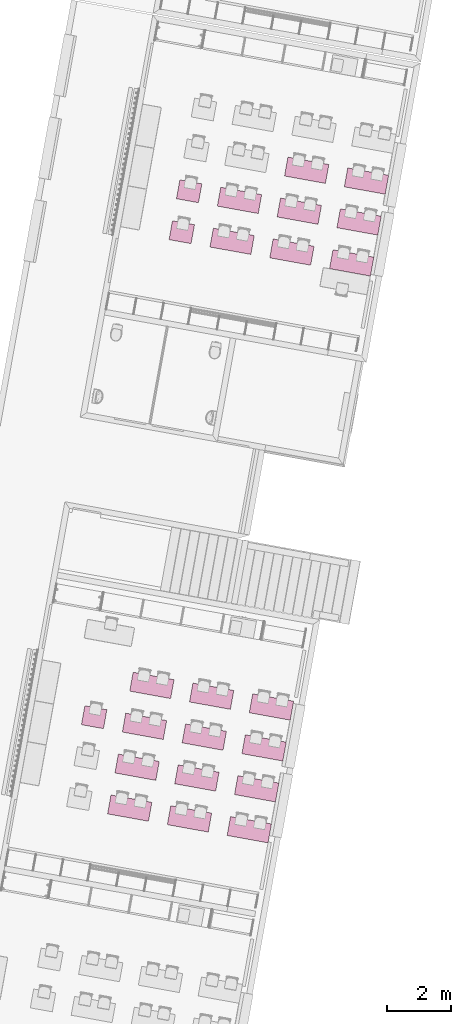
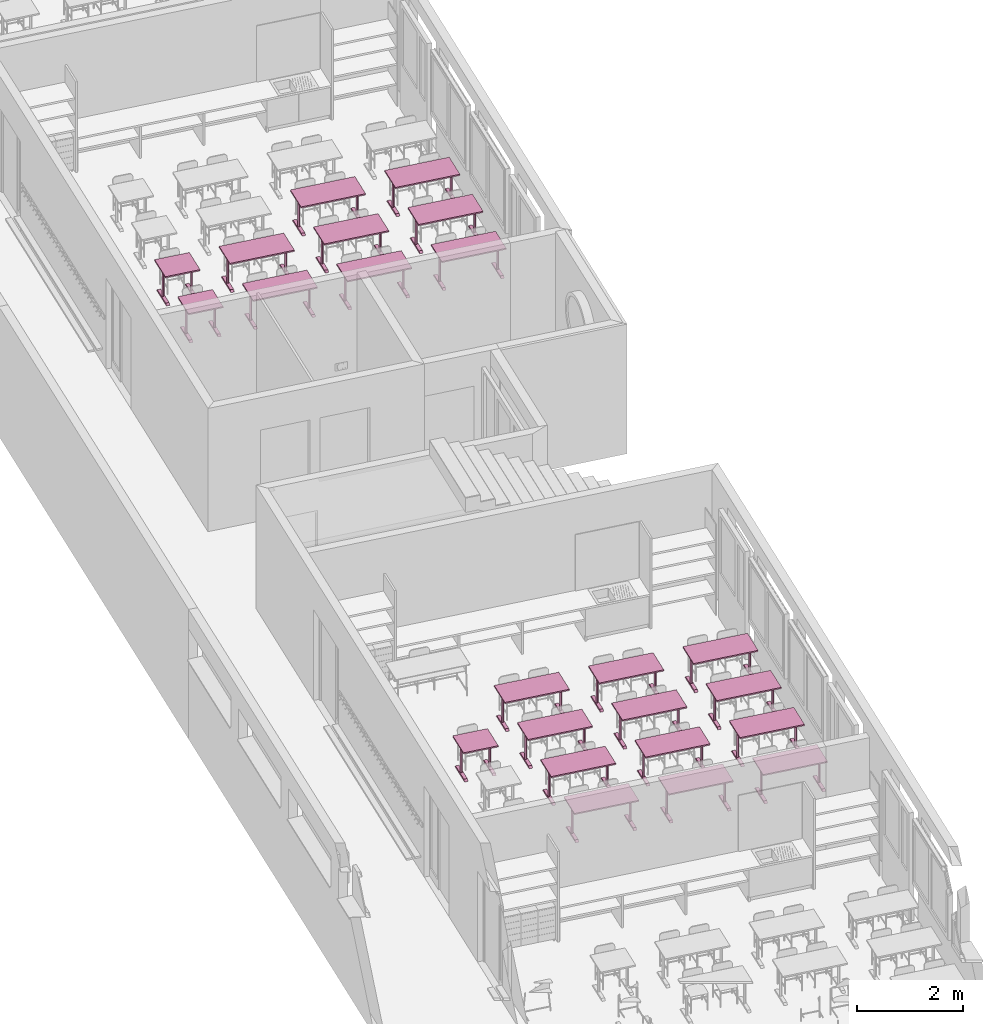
# One storey, part 7 of 79: 23 furnishings.
"""IFC2X3 building model written with IfcOpenShell, lengths in metres."""

from ifc_helpers import new_model, entity, si_unit, converted_unit, derived_unit, money_unit, direction, frame, origin_with_axes, place, context, subcontext, project, spatial, faceted_brep, source, transform, mapped, material, type_object, element, save


model = new_model("IFC2X3")

# Units and contexts
model_context = context("Model", 3, precision=1e-05, world=origin_with_axes(), true_north=direction((0.0, 1.0)))
body_context = subcontext(model_context, "Body", "Model", "MODEL_VIEW")
ifc_project = project(units=[si_unit("LENGTHUNIT", "METRE"), si_unit("AREAUNIT", "SQUARE_METRE"), si_unit("VOLUMEUNIT", "CUBIC_METRE"), converted_unit("PLANEANGLEUNIT", "DEGREE", entity("IfcPlaneAngleMeasure", 0.0174532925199), si_unit("PLANEANGLEUNIT", "RADIAN"), dimensions=[0, 0, 0, 0, 0, 0, 0]), money_unit("CHF"), converted_unit("TIMEUNIT", "Year", entity("IfcTimeMeasure", 31556926.0), si_unit("TIMEUNIT", "SECOND"), dimensions=[0, 0, 1, 0, 0, 0, 0]), si_unit("MASSUNIT", "GRAM", prefix="KILO"), si_unit("THERMODYNAMICTEMPERATUREUNIT", "DEGREE_CELSIUS"), si_unit("LUMINOUSINTENSITYUNIT", "LUMEN"), si_unit("ENERGYUNIT", "JOULE", prefix="MEGA"), derived_unit("THERMALCONDUCTANCEUNIT", [(si_unit("POWERUNIT", "WATT"), 1), (si_unit("LENGTHUNIT", "METRE"), -1), (si_unit("THERMODYNAMICTEMPERATUREUNIT", "KELVIN"), -1)]), derived_unit("SPECIFICHEATCAPACITYUNIT", [(si_unit("ENERGYUNIT", "JOULE"), 1), (si_unit("MASSUNIT", "GRAM", prefix="KILO"), -1), (si_unit("THERMODYNAMICTEMPERATUREUNIT", "KELVIN"), -1)]), derived_unit("MASSDENSITYUNIT", [(si_unit("MASSUNIT", "GRAM", prefix="KILO"), 1), (si_unit("VOLUMEUNIT", "CUBIC_METRE"), -1)])], contexts=[model_context])

# Site, building, storey
site_placement = place(None, frame((0.0, 0.0, 0.0), z_axis=(0.0, 0.0, 1.0), x_axis=(-0.177771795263, -0.984071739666, 0.0)))
site = spatial("IfcSite", under=ifc_project, at=site_placement, Name="Site", CompositionType="ELEMENT")
building_placement = place(site_placement, origin_with_axes())
building = spatial("IfcBuilding", under=site, at=building_placement, Name="Bâtiment", CompositionType="ELEMENT")
storey_placement = place(building_placement, origin_with_axes())
storey = spatial("IfcBuildingStorey", under=building, at=storey_placement, Name="RDC", CompositionType="ELEMENT", Elevation=0.0)

# Furnishings
ifc_material = material(Name="Matériau de construction IFC")
furnishing_element_type = type_object("IfcFurnishingElementType", Name="Table de bureau 21")
shared_shape_1 = source(origin_with_axes(), body_context, "Body", "Brep", [
    faceted_brep([(0.0, 0.0, 0.7), (0.0, 0.0, 0.67), (1.3, 0.0, 0.67), (1.3, 0.0, 0.7), (0.0, 0.6, 0.7), (0.0, 0.6, 0.67), (1.3, 0.6, 0.67), (1.3, 0.6, 0.7)], [[[0, 1, 2, 3]], [[4, 5, 1, 0]], [[1, 5, 6, 2]], [[3, 2, 6, 7]], [[0, 3, 7, 4]], [[7, 6, 5, 4]]]),
    faceted_brep([(0.03, 0.025, 0.0), (0.03, 0.575, 0.0), (0.1, 0.575, 0.0), (0.1, 0.025, 0.0), (0.03, 0.065, 0.04), (0.03, 0.535, 0.04), (0.1, 0.535, 0.04), (0.1, 0.065, 0.04)], [[[0, 1, 2, 3]], [[1, 0, 4, 5]], [[1, 5, 6, 2]], [[3, 2, 6, 7]], [[4, 0, 3, 7]], [[5, 4, 7, 6]]]),
    faceted_brep([(0.09, 0.3, 0.04), (0.065, 0.275, 0.04), (0.04, 0.3, 0.04), (0.065, 0.325, 0.04), (0.09, 0.3, 0.62), (0.065, 0.275, 0.62), (0.04, 0.3, 0.62), (0.065, 0.325, 0.62)], [[[0, 1, 2, 3]], [[1, 0, 4, 5]], [[2, 1, 5, 6]], [[3, 2, 6, 7]], [[0, 3, 7, 4]], [[4, 7, 6, 5]]]),
    faceted_brep([(0.085, 0.3, 0.62), (0.065, 0.28, 0.62), (0.045, 0.3, 0.62), (0.065, 0.32, 0.62), (0.085, 0.3, 0.67), (0.065, 0.28, 0.67), (0.045, 0.3, 0.67), (0.065, 0.32, 0.67)], [[[0, 1, 2, 3]], [[1, 0, 4, 5]], [[2, 1, 5, 6]], [[3, 2, 6, 7]], [[0, 3, 7, 4]], [[4, 7, 6, 5]]]),
    faceted_brep([(1.2, 0.025, 0.0), (1.2, 0.575, 0.0), (1.27, 0.575, 0.0), (1.27, 0.025, 0.0), (1.2, 0.065, 0.04), (1.2, 0.535, 0.04), (1.27, 0.535, 0.04), (1.27, 0.065, 0.04)], [[[0, 1, 2, 3]], [[1, 0, 4, 5]], [[1, 5, 6, 2]], [[3, 2, 6, 7]], [[0, 3, 7, 4]], [[5, 4, 7, 6]]]),
    faceted_brep([(1.26, 0.3, 0.04), (1.235, 0.275, 0.04), (1.21, 0.3, 0.04), (1.235, 0.325, 0.04), (1.26, 0.3, 0.62), (1.235, 0.275, 0.62), (1.21, 0.3, 0.62), (1.235, 0.325, 0.62)], [[[0, 1, 2, 3]], [[1, 0, 4, 5]], [[2, 1, 5, 6]], [[3, 2, 6, 7]], [[0, 3, 7, 4]], [[4, 7, 6, 5]]]),
    faceted_brep([(1.255, 0.3, 0.62), (1.235, 0.28, 0.62), (1.215, 0.3, 0.62), (1.235, 0.32, 0.62), (1.255, 0.3, 0.67), (1.235, 0.28, 0.67), (1.215, 0.3, 0.67), (1.235, 0.32, 0.67)], [[[0, 1, 2, 3]], [[1, 0, 4, 5]], [[2, 1, 5, 6]], [[3, 2, 6, 7]], [[0, 3, 7, 4]], [[4, 7, 6, 5]]]),
])
for number, where, z_axis, x_axis, name in (
    (1, (134.03484124, -149.77715077, 0.0), (0.0, 0.0, 1.0), (0.0, 1.0, 0.0), "bureau-2pl"),
    (2, (135.33484124, -151.67715077, 0.0), (0.0, 0.0, 1.0), (0.0, 1.0, 0.0), "bureau-2pl"),
    (3, (135.33484124, -149.77715077, 0.0), (0.0, 0.0, 1.0), (0.0, 1.0, 0.0), "bureau-2pl"),
    (4, (135.33484124, -153.57715077, 0.0), (0.0, 0.0, 1.0), (0.0, 1.0, 0.0), "bureau-2pl"),
    (5, (134.03484124, -153.57715077, 0.0), (0.0, 0.0, 1.0), (0.0, 1.0, 0.0), "bureau-2pl"),
    (6, (152.049841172, -153.577150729, 0.0), (0.0, 0.0, 1.0), (0.0, 1.0, 0.0), "bureau-2pl"),
    (7, (132.73484124, -151.67715077, 0.0), (0.0, 0.0, 1.0), (0.0, 1.0, 0.0), "bureau-2pl"),
    (8, (149.449841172, -149.777150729, 0.0), (0.0, 0.0, 1.0), (0.0, 1.0, 0.0), "bureau-2pl"),
    (9, (150.749841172, -153.577150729, 0.0), (0.0, 0.0, 1.0), (0.0, 1.0, 0.0), "bureau-2pl"),
    (10, (149.449841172, -153.577150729, 0.0), (0.0, 0.0, 1.0), (0.0, 1.0, 0.0), "bureau-2pl"),
    (11, (134.03484124, -151.67715077, 0.0), (0.0, 0.0, 1.0), (0.0, 1.0, 0.0), "bureau-2pl"),
    (12, (152.049841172, -151.677150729, 0.0), (0.0, 0.0, 1.0), (0.0, 1.0, 0.0), "bureau-2pl"),
    (13, (149.449841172, -151.677150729, 0.0), (0.0, 0.0, 1.0), (0.0, 1.0, 0.0), "bureau-2pl"),
    (14, (132.73484124, -149.77715077, 0.0), (0.0, 0.0, 1.0), (0.0, 1.0, 0.0), "bureau-2pl"),
    (15, (152.049841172, -149.777150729, 0.0), (0.0, 0.0, 1.0), (0.0, 1.0, 0.0), "bureau-2pl"),
    (16, (150.749841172, -151.677150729, 0.0), (0.0, 0.0, 1.0), (0.0, 1.0, 0.0), "bureau-2pl"),
    (17, (153.349841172, -151.677150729, 0.0), (0.0, 0.0, 1.0), (0.0, 1.0, 0.0), "bureau-2pl"),
    (18, (153.349841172, -149.777150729, 0.0), (0.0, 0.0, 1.0), (0.0, 1.0, 0.0), "bureau-2pl"),
    (19, (153.349841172, -153.577150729, 0.0), (0.0, 0.0, 1.0), (0.0, 1.0, 0.0), "bureau-2pl"),
    (20, (150.749841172, -149.777150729, 0.0), (0.0, 0.0, 1.0), (0.0, 1.0, 0.0), "bureau-2pl"),
):
    element("IfcFurnishingElement", number, at=place(storey_placement, frame(where, z_axis=z_axis, x_axis=x_axis)), inside=storey, type_object=furnishing_element_type, material=ifc_material, Name=name, ObjectType="SYSTEM_FURNITURE", context=body_context, shape_type="MappedRepresentation", body=[
        mapped(shared_shape_1, transform((0.0, 0.0, 0.0))),
    ])
shared_shape_2 = source(origin_with_axes(), body_context, "Body", "Brep", [
    faceted_brep([(0.0, 0.0, 0.7), (0.0, 0.0, 0.67), (0.7, 0.0, 0.67), (0.7, 0.0, 0.7), (0.0, 0.6, 0.7), (0.0, 0.6, 0.67), (0.7, 0.6, 0.67), (0.7, 0.6, 0.7)], [[[0, 1, 2, 3]], [[4, 5, 1, 0]], [[1, 5, 6, 2]], [[3, 2, 6, 7]], [[0, 3, 7, 4]], [[7, 6, 5, 4]]]),
    faceted_brep([(0.03, 0.025, 0.0), (0.03, 0.575, 0.0), (0.1, 0.575, 0.0), (0.1, 0.025, 0.0), (0.03, 0.065, 0.04), (0.03, 0.535, 0.04), (0.1, 0.535, 0.04), (0.1, 0.065, 0.04)], [[[0, 1, 2, 3]], [[1, 0, 4, 5]], [[1, 5, 6, 2]], [[3, 2, 6, 7]], [[4, 0, 3, 7]], [[5, 4, 7, 6]]]),
    faceted_brep([(0.09, 0.3, 0.04), (0.065, 0.275, 0.04), (0.04, 0.3, 0.04), (0.065, 0.325, 0.04), (0.09, 0.3, 0.62), (0.065, 0.275, 0.62), (0.04, 0.3, 0.62), (0.065, 0.325, 0.62)], [[[0, 1, 2, 3]], [[1, 0, 4, 5]], [[2, 1, 5, 6]], [[3, 2, 6, 7]], [[0, 3, 7, 4]], [[4, 7, 6, 5]]]),
    faceted_brep([(0.085, 0.3, 0.62), (0.065, 0.28, 0.62), (0.045, 0.3, 0.62), (0.065, 0.32, 0.62), (0.085, 0.3, 0.67), (0.065, 0.28, 0.67), (0.045, 0.3, 0.67), (0.065, 0.32, 0.67)], [[[0, 1, 2, 3]], [[1, 0, 4, 5]], [[2, 1, 5, 6]], [[3, 2, 6, 7]], [[0, 3, 7, 4]], [[4, 7, 6, 5]]]),
    faceted_brep([(0.6, 0.025, 0.0), (0.6, 0.575, 0.0), (0.67, 0.575, 0.0), (0.67, 0.025, 0.0), (0.6, 0.065, 0.04), (0.6, 0.535, 0.04), (0.67, 0.535, 0.04), (0.67, 0.065, 0.04)], [[[0, 1, 2, 3]], [[1, 0, 4, 5]], [[1, 5, 6, 2]], [[3, 2, 6, 7]], [[4, 0, 3, 7]], [[5, 4, 7, 6]]]),
    faceted_brep([(0.66, 0.3, 0.04), (0.635, 0.275, 0.04), (0.61, 0.3, 0.04), (0.635, 0.325, 0.04), (0.66, 0.3, 0.62), (0.635, 0.275, 0.62), (0.61, 0.3, 0.62), (0.635, 0.325, 0.62)], [[[0, 1, 2, 3]], [[1, 0, 4, 5]], [[2, 1, 5, 6]], [[3, 2, 6, 7]], [[0, 3, 7, 4]], [[4, 7, 6, 5]]]),
    faceted_brep([(0.655, 0.3, 0.62), (0.635, 0.28, 0.62), (0.615, 0.3, 0.62), (0.635, 0.32, 0.62), (0.655, 0.3, 0.67), (0.635, 0.28, 0.67), (0.615, 0.3, 0.67), (0.635, 0.32, 0.67)], [[[0, 1, 2, 3]], [[1, 0, 4, 5]], [[2, 1, 5, 6]], [[3, 2, 6, 7]], [[0, 3, 7, 4]], [[4, 7, 6, 5]]]),
])
for number, where, z_axis, x_axis, name in (
    (21, (150.749841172, -154.877150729, 0.0), (0.0, 0.0, 1.0), (0.0, 1.0, 0.0), "bureau-2pl"),
    (22, (135.33484124, -154.87715077, 0.0), (0.0, 0.0, 1.0), (0.0, 1.0, 0.0), "bureau-2pl"),
    (23, (134.03484124, -154.87715077, 0.0), (0.0, 0.0, 1.0), (0.0, 1.0, 0.0), "bureau-2pl"),
):
    element("IfcFurnishingElement", number, at=place(storey_placement, frame(where, z_axis=z_axis, x_axis=x_axis)), inside=storey, type_object=furnishing_element_type, material=ifc_material, Name=name, ObjectType="SYSTEM_FURNITURE", context=body_context, shape_type="MappedRepresentation", body=[
        mapped(shared_shape_2, transform((0.0, 0.0, 0.0))),
    ])

save(model, "model.ifc")
